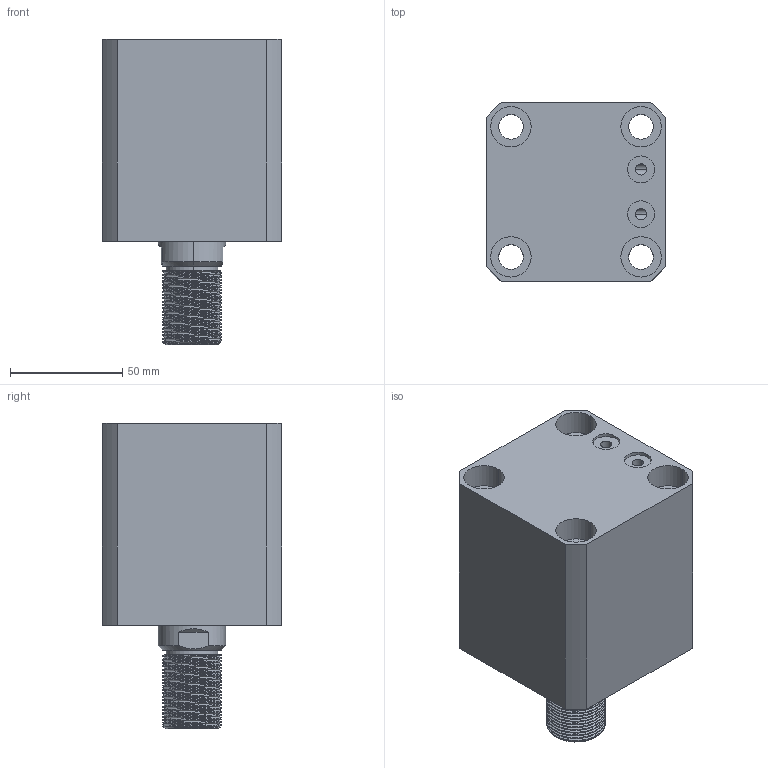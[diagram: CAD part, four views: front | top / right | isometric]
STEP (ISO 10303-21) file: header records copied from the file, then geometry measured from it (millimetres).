
FILE_DESCRIPTION (( 'STEP AP203' ), '1' );
FILE_NAME ('CHTB-SDMB50-30W.STEP', '2018-05-19T03:54:47', ( '' ), ( '' ), 'SwSTEP 2.0', 'SolidWorks 2015', '' );
FILE_SCHEMA (( 'CONFIG_CONTROL_DESIGN' ));
Length unit declared in the file: millimetre
Products named in the file (5): CHTM-SDMA50QG; 掛极SDMB50-30W; CHTB-SDMB50-30W; M6; 活塞杆SDMB50-30W
Assembly tree (5 placements, depth 2):
  CHTB-SDMB50-30W
    掛极SDMB50-30W
    活塞杆SDMB50-30W
    CHTM-SDMA50QG
    M6  x2
Bounding box: 80 x 80 x 136 mm (x, y, z)
Volume: 500795.8 mm3; surface area: 103792.9 mm2
Topology: 5 solids, 5 shells, 305 faces, 821 edges, 547 vertices
Faces by surface type: cylinder 175, plane 57, cone 29, bspline 28, torus 16
Entity records: 17763 total; most frequent: CARTESIAN_POINT 11022, ORIENTED_EDGE 1448, DIRECTION 1131, EDGE_CURVE 724, VERTEX_POINT 486, AXIS2_PLACEMENT_3D 455, EDGE_LOOP 312, FACE_OUTER_BOUND 270
